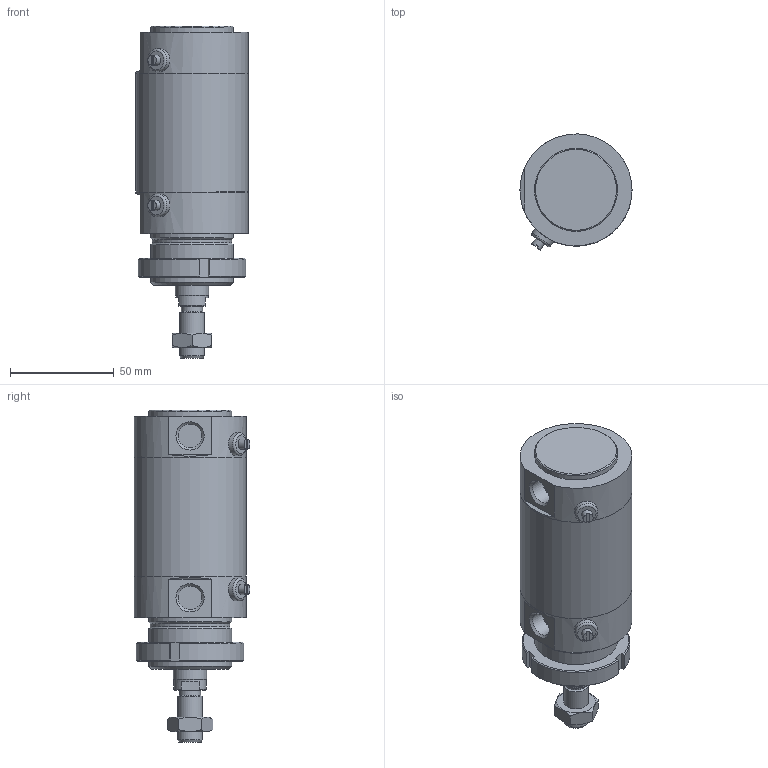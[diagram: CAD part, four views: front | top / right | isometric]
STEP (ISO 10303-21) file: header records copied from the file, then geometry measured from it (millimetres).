
FILE_DESCRIPTION(/* description */ (''),/* implementation_level */ '2;1');
FILE_NAME(/* name */ 'I:\Area Tecnica\Documenti\A-Manieri\_Inventor\12X\12X#D_###_####_#_#\12XBD_050_0015_#_#.stp',/* time_stamp */ '2015-05-04T15:12:26+02:00',/* author */ ('maniean1'),/* organization */ ('Pneumax S.p.A.'),/* preprocessor_version */ 'ST-DEVELOPER v15.2',/* originating_system */ 'Autodesk Inventor 2014',/* authorisation */ '');
FILE_SCHEMA (('AUTOMOTIVE_DESIGN { 1 0 10303 214 3 1 1 }'));
Length unit declared in the file: millimetre
Products named in the file (7): C1250_619-0015; 12X50_606; S12X50_0015; 12X_50_11; 12X50_612; G12X_050_05; 12XBD_050_0015_#_#
Bounding box: 54 x 55.88 x 160 mm (x, y, z)
Volume: 244097 mm3; surface area: 61503.5 mm2
Topology: 6 solids, 6 shells, 99 faces, 217 edges, 140 vertices
Faces by surface type: plane 53, cylinder 25, cone 19, torus 2
Full cylindrical faces by diameter (mm): 5 x2, 10.2 x1, 11 x2, 11.4 x2, 12 x2, 14 x1, 15.6 x1, 16 x1, 38.2 x1, 40 x4, 50 x2, 54 x3
Entity records: 2667 total; most frequent: CARTESIAN_POINT 540, DIRECTION 444, ORIENTED_EDGE 348, AXIS2_PLACEMENT_3D 188, EDGE_CURVE 174, EDGE_LOOP 152, VERTEX_POINT 132, ADVANCED_FACE 99
